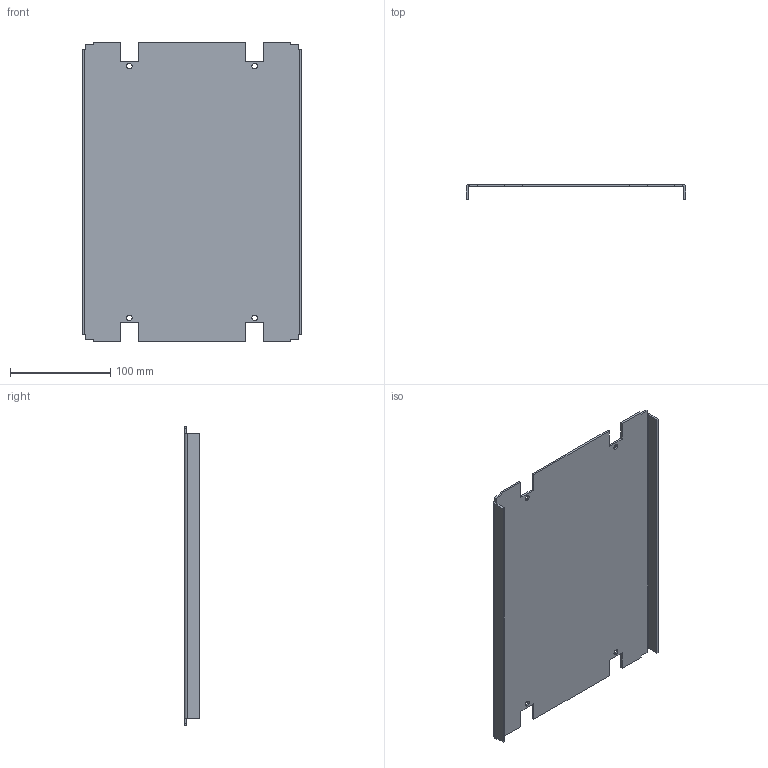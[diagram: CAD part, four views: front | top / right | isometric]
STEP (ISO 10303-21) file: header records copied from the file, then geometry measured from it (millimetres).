
FILE_DESCRIPTION(('CAx-IF Rec.Pracs.---Model Styling and Organization---1.2---2011-12-15','CAx-IF Rec.Pracs.---Geometric and Assembly Validation Properties---4.1---2014-06-16','CAx-IF Rec.Pracs.---PMI Polyline Presentation---2.0---2013-05-24'),'2;1');
FILE_NAME('R5CPL425.stp','2021-05-06T03:43:38+03:00',(''),(''),'STEP Interface 4.4 by CT CoreTechnologie','3D_Evolution4.4 by CT CoreTechnologie','');
FILE_SCHEMA(('AUTOMOTIVE_DESIGN { 1 0 10303 214 1 1 1 1 }'));
Length unit declared in the file: millimetre
Products named in the file (2): R5CPL425; RB.0549.00.00.0_-12
Assembly tree (1 placements, depth 2):
  R5CPL425
    RB.0549.00.00.0_-12
Bounding box: 219 x 15 x 299 mm (x, y, z)
Surface area: 144389.8 mm2 (no closed solid volume)
Topology: 0 solids, 1 shells, 56 faces, 158 edges, 104 vertices
Faces by surface type: plane 44, cylinder 12
Entity records: 1883 total; most frequent: CARTESIAN_POINT 320, ORIENTED_EDGE 316, DIRECTION 298, EDGE_CURVE 158, VECTOR 134, LINE 134, VERTEX_POINT 104, AXIS2_PLACEMENT_3D 82
